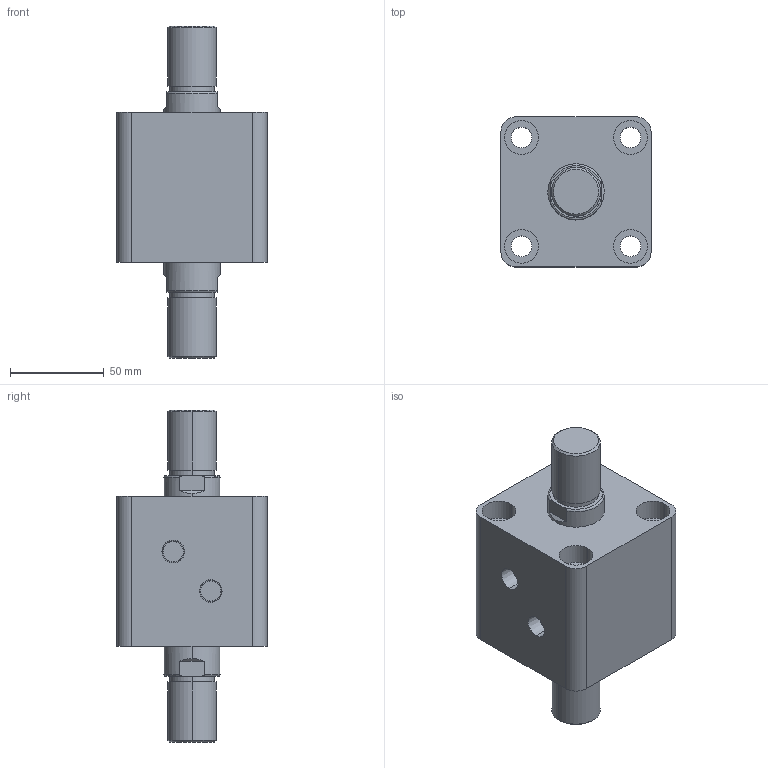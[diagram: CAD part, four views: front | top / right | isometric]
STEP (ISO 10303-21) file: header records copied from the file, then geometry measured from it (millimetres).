
FILE_DESCRIPTION (( 'STEP AP203' ), '1' );
FILE_NAME ('HTB-SW50-5W.STEP', '2019-10-07T09:16:39', ( '微软用户' ), ( '微软中国' ), 'SwSTEP 2.0', 'SolidWorks 2012', '' );
FILE_SCHEMA (( 'CONFIG_CONTROL_DESIGN' ));
Length unit declared in the file: millimetre
Products named in the file (3): HTB-SW50-5W; HTB-SW50-5W活塞杆; HTB-SW50-5掛极
Assembly tree (2 placements, depth 2):
  HTB-SW50-5W
    HTB-SW50-5掛极
    HTB-SW50-5W活塞杆
Bounding box: 80 x 80 x 177 mm (x, y, z)
Volume: 510037.4 mm3; surface area: 81497.8 mm2
Topology: 2 solids, 2 shells, 108 faces, 240 edges, 156 vertices
Faces by surface type: cylinder 52, plane 36, torus 12, cone 8
Entity records: 3449 total; most frequent: CARTESIAN_POINT 629, DIRECTION 586, ORIENTED_EDGE 480, AXIS2_PLACEMENT_3D 249, EDGE_CURVE 240, VERTEX_POINT 156, EDGE_LOOP 138, CIRCLE 136
